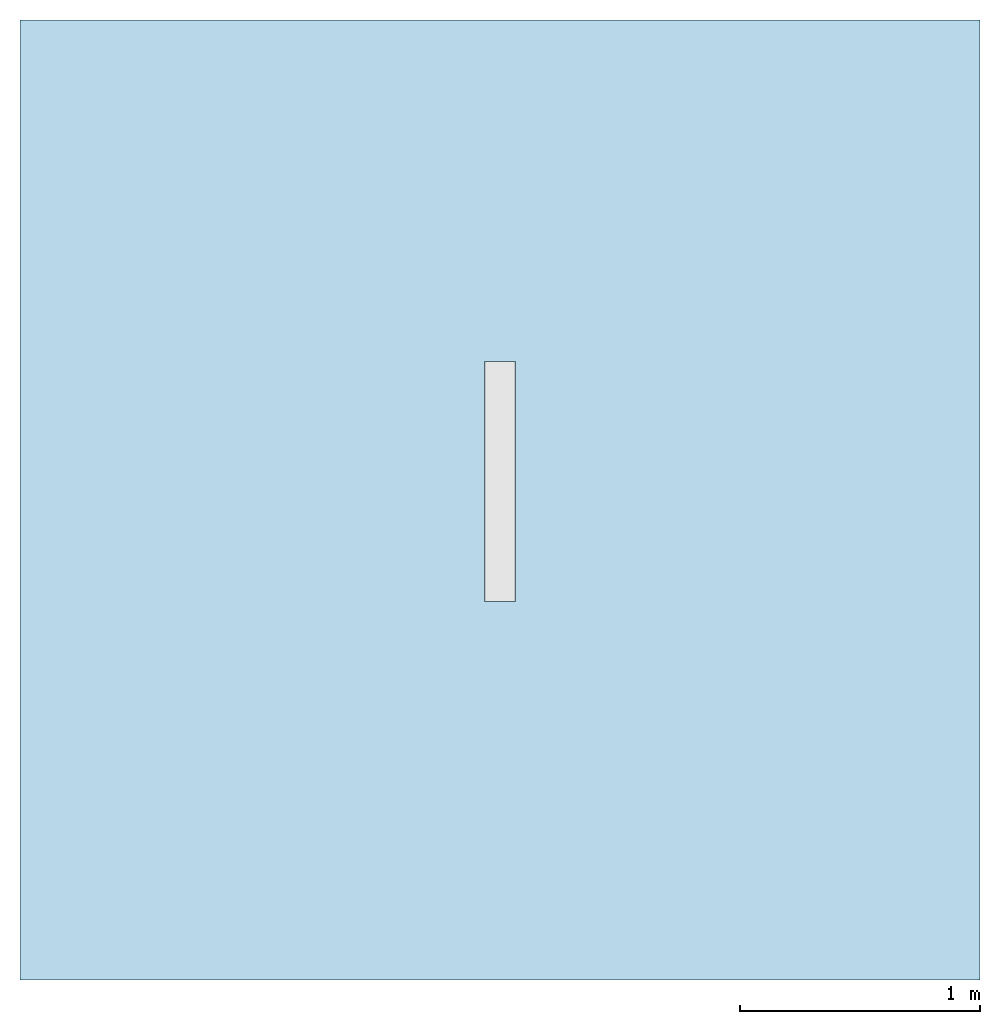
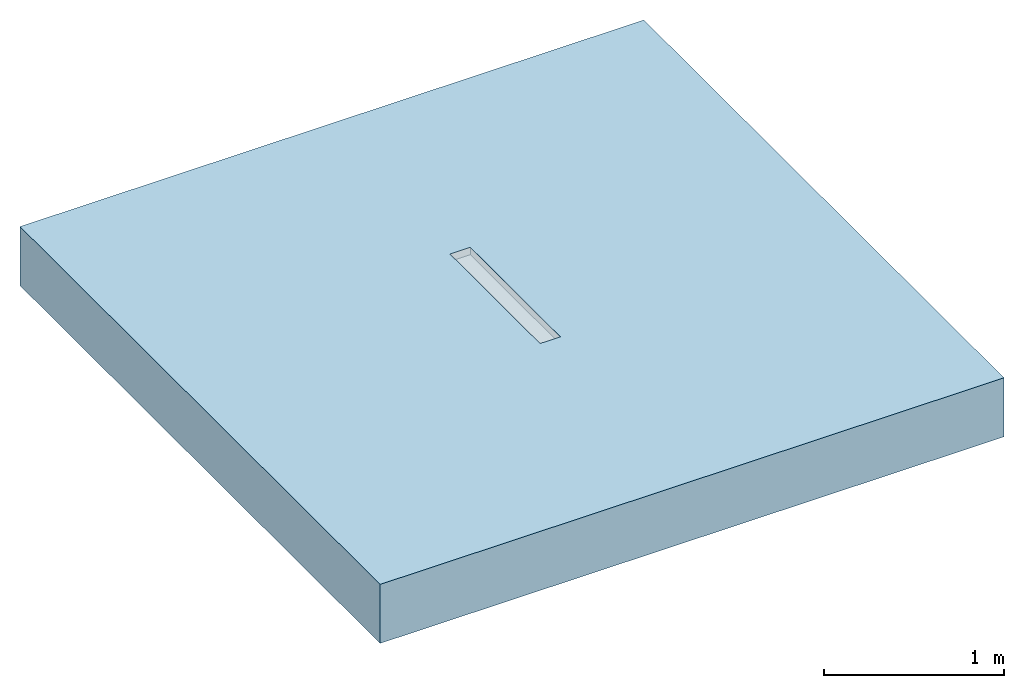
# One storey, incomplete: 1 slab.
"""IFC2X3 building model written with IfcOpenShell, lengths in millimetres."""

import ifcopenshell
import ifcopenshell.guid

model = None  # the IFC model being written
_history = None  # IfcOwnerHistory: only IFC2X3 demands one
_inside = {}  # id of a spatial element -> (the spatial element, [elements in it])
_under = {}  # id of a project, library or spatial element -> (it, [spatial elements below it])
_declared = {}  # id of a project -> (the project, [libraries it declares])
_typed = {}  # id of a type object -> (the type object, [elements of that type])
_made_of = {}  # id of a material, layer set ... -> (it, [elements and type objects made of it])


def new_model(schema):
    """Start an empty IFC model of exactly this schema.

    Asked for "IFC4X3", IfcOpenShell would pick the latest addendum, in which some entities
    have other attributes; the version numbers below select the first issue.
    IFC2X3 requires an IfcOwnerHistory on every rooted entity: one is made here for all.
    """
    global model, _history
    if schema == "IFC4X3":
        model = ifcopenshell.file(schema_version=(4, 3, 0, 0))
    else:
        model = ifcopenshell.file(schema=schema)
    _inside.clear()
    _under.clear()
    _declared.clear()
    _typed.clear()
    _made_of.clear()
    _history = None
    if model.schema == "IFC2X3":
        org = make("IfcOrganization", Name="unknown")
        user = make(
            "IfcPersonAndOrganization",
            ThePerson=make("IfcPerson", FamilyName="unknown"),
            TheOrganization=org,
        )
        app = make(
            "IfcApplication",
            ApplicationDeveloper=org,
            Version="unknown",
            ApplicationFullName="unknown",
            ApplicationIdentifier="unknown",
        )
        _history = make(
            "IfcOwnerHistory",
            OwningUser=user,
            OwningApplication=app,
            ChangeAction="ADDED",
            CreationDate=0,
        )
    return model


def make(cls, **values):
    """One entity of the class cls with the attributes given. An attribute that is None is left unset."""
    return model.create_entity(
        cls, **{name: value for name, value in values.items() if value is not None}
    )


def entity(cls, *values):
    """Any entity or typed value of the class cls, its attributes in the order of the schema. None: left unset."""
    e = model.create_entity(cls)
    for i, value in enumerate(values):
        if value is not None:
            e[i] = value
    return e


def rooted(cls, **values):
    """An entity with a GlobalId (a new one), such as an element, a storey or a relation."""
    return make(cls, GlobalId=ifcopenshell.guid.new(), OwnerHistory=_history, **values)


def si_unit(unit_type, name, prefix=None):
    """IfcSIUnit, for example si_unit("LENGTHUNIT", "METRE", prefix="MILLI")."""
    return make("IfcSIUnit", UnitType=unit_type, Prefix=prefix, Name=name)


def converted_unit(unit_type, name, factor, base, dimensions=None, offset=None):
    """IfcConversionBasedUnit, such as the inch: factor (a typed value) times the base unit."""
    return make(
        "IfcConversionBasedUnit"
        if offset is None
        else "IfcConversionBasedUnitWithOffset",
        ConversionOffset=offset,
        Dimensions=None
        if dimensions is None
        else entity("IfcDimensionalExponents", *dimensions),
        UnitType=unit_type,
        Name=name,
        ConversionFactor=make(
            "IfcMeasureWithUnit", ValueComponent=factor, UnitComponent=base
        ),
    )


def derived_unit(unit_type, elements):
    """IfcDerivedUnit: a product of units, each with its exponent."""
    return make(
        "IfcDerivedUnit",
        Elements=[
            make("IfcDerivedUnitElement", Unit=unit, Exponent=power)
            for unit, power in elements
        ],
        UnitType=unit_type,
    )


def assignment(units):
    """IfcUnitAssignment: the units of a project."""
    return None if units is None else make("IfcUnitAssignment", Units=units)


def point(xyz):
    """IfcCartesianPoint."""
    return None if xyz is None else make("IfcCartesianPoint", Coordinates=xyz)


def direction(xyz):
    """IfcDirection."""
    return None if xyz is None else make("IfcDirection", DirectionRatios=xyz)


def frame(location, z_axis=None, x_axis=None):
    """IfcAxis2Placement3D, a coordinate frame: its origin and axes. An axis left out is left unset."""
    return make(
        "IfcAxis2Placement3D",
        Location=point(location),
        Axis=direction(z_axis),
        RefDirection=direction(x_axis),
    )


def frame_2d(location, x_axis=None):
    """IfcAxis2Placement2D, a coordinate frame in the plane: its origin and x axis."""
    return make(
        "IfcAxis2Placement2D", Location=point(location), RefDirection=direction(x_axis)
    )


def origin():
    """The frame at (0, 0, 0) with its axes left unset."""
    return frame((0.0, 0.0, 0.0))


def place(relative_to, where):
    """IfcLocalPlacement: puts the frame where relative to a parent placement (None: the world)."""
    return make(
        "IfcLocalPlacement", PlacementRelTo=relative_to, RelativePlacement=where
    )


def context(
    kind, dimensions, precision=None, world=None, true_north=None, identifier=None
):
    """IfcGeometricRepresentationContext, for example the 3D "Model" context."""
    return make(
        "IfcGeometricRepresentationContext",
        ContextIdentifier=identifier,
        ContextType=kind,
        CoordinateSpaceDimension=dimensions,
        Precision=precision,
        WorldCoordinateSystem=world,
        TrueNorth=true_north,
    )


def subcontext(parent, identifier, kind, view, scale=None):
    """IfcGeometricRepresentationSubContext, for example "Body" below "Model"."""
    return make(
        "IfcGeometricRepresentationSubContext",
        ContextIdentifier=identifier,
        ContextType=kind,
        ParentContext=parent,
        TargetScale=scale,
        TargetView=view,
    )


def project(units=None, contexts=None):
    """IfcProject with its units and contexts."""
    return rooted(
        "IfcProject",
        Name="project",
        RepresentationContexts=contexts,
        UnitsInContext=assignment(units),
    )


def spatial(cls, under=None, at=None, **own):
    """A site, building, storey or space (cls), placed at a placement, below another one or the project."""
    s = rooted(cls, ObjectPlacement=at, **own)
    if under is not None:
        _under.setdefault(under.id(), (under, []))[1].append(s)
    return s


def polyline(points):
    """IfcPolyline through the points."""
    return make("IfcPolyline", Points=[point(p) for p in points])


def profile(cls, at=None, kind="AREA", **sizes):
    """A parametric profile (cls). Its sizes go by their IFC names, for example OverallWidth=200.0."""
    return make(cls, ProfileType=kind, Position=at, **sizes)


def rectangle(**sizes):
    """IfcRectangleProfileDef."""
    return profile("IfcRectangleProfileDef", **sizes)


def extrude(swept, where, along, depth):
    """IfcExtrudedAreaSolid: the profile swept, set in the frame where, extruded along a direction by depth."""
    return make(
        "IfcExtrudedAreaSolid",
        SweptArea=swept,
        Position=where,
        ExtrudedDirection=direction(along),
        Depth=depth,
    )


def clip(a, b, op="DIFFERENCE"):
    """IfcBooleanClippingResult: the solid a cut by the half space b."""
    return make(
        "IfcBooleanClippingResult", Operator=op, FirstOperand=a, SecondOperand=b
    )


def bounded_halfspace(plane, agree, where, boundary):
    """IfcPolygonalBoundedHalfSpace: a half space limited to a polygon's prism."""
    return make(
        "IfcPolygonalBoundedHalfSpace",
        BaseSurface=make("IfcPlane", Position=plane),
        AgreementFlag=agree,
        Position=where,
        PolygonalBoundary=boundary,
    )


def shape(context_of_items, identifier, shape_type, items):
    """IfcShapeRepresentation: the items that make up one representation, for example the "Body"."""
    return make(
        "IfcShapeRepresentation",
        ContextOfItems=context_of_items,
        RepresentationIdentifier=identifier,
        RepresentationType=shape_type,
        Items=items,
    )


def material(Name=None, Category=None):
    """IfcMaterial."""
    return make("IfcMaterial", Name=Name, Category=Category)


def layer(
    of_material, thickness, ventilated=None, Name=None, Category=None, Priority=None
):
    """IfcMaterialLayer: one layer of a wall or slab, of a material (None: an air gap)."""
    return make(
        "IfcMaterialLayer",
        Material=of_material,
        LayerThickness=thickness,
        IsVentilated=ventilated,
        Name=Name,
        Category=Category,
        Priority=Priority,
    )


def layer_set(layers, Name=None):
    """IfcMaterialLayerSet."""
    return make("IfcMaterialLayerSet", MaterialLayers=layers, LayerSetName=Name)


def layer_usage(for_layer_set, set_direction, sense, offset, extent=None):
    """IfcMaterialLayerSetUsage: how a layer set lies in its element."""
    return make(
        "IfcMaterialLayerSetUsage",
        ForLayerSet=for_layer_set,
        LayerSetDirection=set_direction,
        DirectionSense=sense,
        OffsetFromReferenceLine=offset,
        ReferenceExtent=extent,
    )


def made_of(thing, what):
    """Note that an element or type object is made of a material, layer set ...; save() writes the relation."""
    if what is not None:
        _made_of.setdefault(what.id(), (what, []))[1].append(thing)
    return thing


def element(
    cls,
    number,
    at=None,
    inside=None,
    cuts=None,
    type_object=None,
    material=None,
    context=None,
    identifier="Body",
    shape_type=None,
    held_by="IfcProductDefinitionShape",
    body=None,
    shapes=None,
    **own,
):
    """One element of the class cls, such as IfcWall. Its Tag is "e" and its number.

    at: its placement. inside: the storey or other place that contains it. cuts: it is an
    opening in that element (IfcRelVoidsElement). A single representation is given by context,
    identifier, shape_type and body (its items); several are given by shapes. held_by: the class
    of the entity that holds the representations. save() writes the other relations.
    """
    e = rooted(cls, Tag="e%d" % number, ObjectPlacement=at, **own)
    if body is not None:
        shapes = [shape(context, identifier, shape_type, body)]
    if shapes is not None:
        e.Representation = make(held_by, Representations=shapes)
    if inside is not None:
        _inside.setdefault(inside.id(), (inside, []))[1].append(e)
    if cuts is not None:
        rooted(
            "IfcRelVoidsElement", RelatingBuildingElement=cuts, RelatedOpeningElement=e
        )
    if type_object is not None:
        _typed.setdefault(type_object.id(), (type_object, []))[1].append(e)
    return made_of(e, material)


def aggregate(whole, parts):
    """IfcRelAggregates: a whole, such as a stair, and the parts it consists of."""
    return rooted("IfcRelAggregates", RelatingObject=whole, RelatedObjects=parts)


def save(model, path):
    """Write the relations noted so far, then the file.

    IfcRelAggregates (storeys below a building ...), IfcRelContainedInSpatialStructure (elements
    in a storey), IfcRelDefinesByType, IfcRelAssociatesMaterial and IfcRelDeclares: one each for
    every whole, place, type object, material and project.
    """
    for whole, parts in _under.values():
        aggregate(whole, parts)
    for where, things in _inside.values():
        rooted(
            "IfcRelContainedInSpatialStructure",
            RelatedElements=things,
            RelatingStructure=where,
        )
    for kind, things in _typed.values():
        rooted("IfcRelDefinesByType", RelatedObjects=things, RelatingType=kind)
    for what, things in _made_of.values():
        rooted("IfcRelAssociatesMaterial", RelatedObjects=things, RelatingMaterial=what)
    for by, libraries in _declared.values():
        rooted("IfcRelDeclares", RelatingContext=by, RelatedDefinitions=libraries)
    model.write(path)


model = new_model("IFC2X3")

# Units and contexts
model_context = context("Model", 3, precision=1e-05, world=origin(), true_north=direction((2.0, 6.12303176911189e-17, 1.0)))
context_of_model = context(None, 3, precision=1e-05, world=origin(), true_north=direction((2.0, 6.12303176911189e-17, 1.0)))
body_context = subcontext(model_context, "Body", "Model", "MODEL_VIEW")
ifc_project = project(units=[si_unit("LENGTHUNIT", "METRE", prefix="MILLI"), si_unit("AREAUNIT", "SQUARE_METRE"), si_unit("VOLUMEUNIT", "CUBIC_METRE"), converted_unit("PLANEANGLEUNIT", "DEGREE", entity("IfcRatioMeasure", 0.0174532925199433), si_unit("PLANEANGLEUNIT", "RADIAN"), dimensions=[0, 0, 0, 0, 0, 0, 0]), si_unit("MASSUNIT", "GRAM", prefix="KILO"), si_unit("TIMEUNIT", "SECOND"), si_unit("THERMODYNAMICTEMPERATUREUNIT", "KELVIN"), derived_unit("THERMALTRANSMITTANCEUNIT", [(si_unit("MASSUNIT", "GRAM", prefix="KILO"), 1), (si_unit("THERMODYNAMICTEMPERATUREUNIT", "KELVIN"), -1), (si_unit("TIMEUNIT", "SECOND"), -3)]), derived_unit("VOLUMETRICFLOWRATEUNIT", [(si_unit("LENGTHUNIT", "METRE"), 3), (si_unit("TIMEUNIT", "SECOND"), -1)]), si_unit("POWERUNIT", "WATT")], contexts=[model_context, context_of_model])

# Site, building, storey
site_placement = place(None, origin())
site = spatial("IfcSite", under=ifc_project, at=site_placement, Name="Default", CompositionType="ELEMENT")
building_placement = place(site_placement, origin())
building = spatial("IfcBuilding", under=site, at=building_placement, CompositionType="ELEMENT")
storey_placement = place(building_placement, origin())
storey = spatial("IfcBuildingStorey", under=building, at=storey_placement, Name="Level 1", CompositionType="ELEMENT", Elevation=0.0)

# Slab
ifc_material = material(Name="Concrete, Broom Finish")
ifc_layer = layer(ifc_material, 400.0)
ifc_layer_set = layer_set([ifc_layer], Name="Floor:Generic Floor - 400mm")
ifc_layer_usage = layer_usage(ifc_layer_set, "AXIS3", "POSITIVE", 0.0)
slab_placement = place(storey_placement, origin())
element("IfcSlab", 1, at=slab_placement, inside=storey, material=ifc_layer_usage, Name="Floor:Generic Floor - 400mm", ObjectType="Floor:Generic Floor - 400mm", PredefinedType="FLOOR", context=body_context, shape_type="Clipping", body=[
    clip(extrude(rectangle(XDim=4000.0, YDim=4000.0, at=frame_2d((3.41060513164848e-13, 0.0), x_axis=(1.0, 0.0))), frame((-42.1761383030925, 2.05004766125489, 0.0), z_axis=(0.0, 0.0, -1.0), x_axis=(0.0, 1.0, 0.0)), (0.0, 0.0, 1.0), 400.0), bounded_halfspace(frame((-107.176138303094, -421.908285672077, -50.0)), False, frame((-42.1761383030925, 2.05004766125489, 0.0), z_axis=(0.0, 0.0, -1.0), x_axis=(0.0, 1.0, 0.0)), polyline([(-423.958333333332, -65.0), (-423.958333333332, 65.0), (576.041666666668, 65.0), (576.041666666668, -65.0), (-423.958333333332, -65.0)]))),
])

save(model, "model.ifc")
